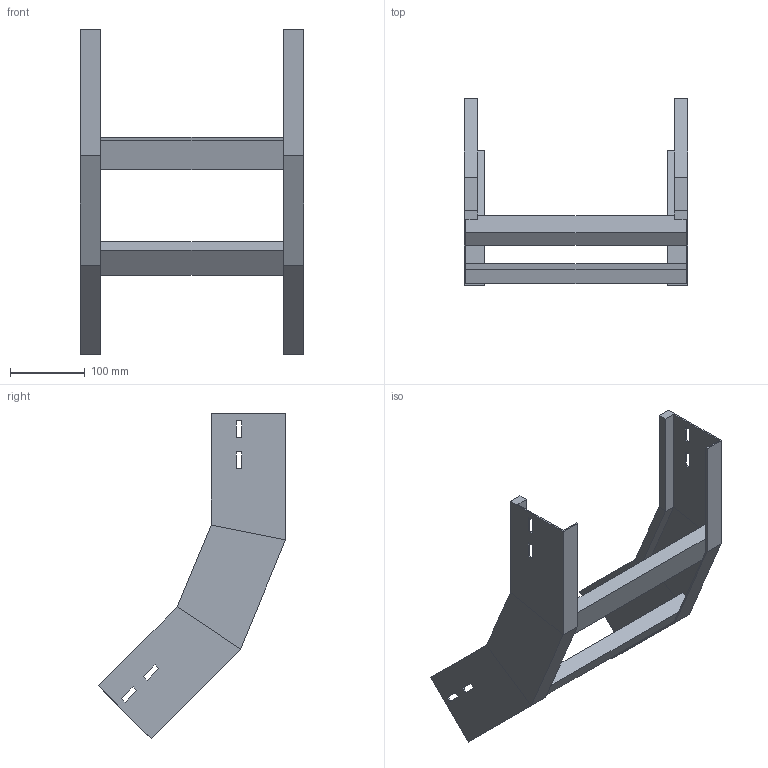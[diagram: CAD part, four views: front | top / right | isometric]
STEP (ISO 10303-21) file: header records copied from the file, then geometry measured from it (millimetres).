
FILE_DESCRIPTION (( 'STEP AP214' ), '1' );
FILE_NAME ('A2X31B3D300XX.step', '2025-03-20T10:03:53', ( '' ), ( '' ), 'SwSTEP 2.0', 'SolidWorks 2023', '' );
FILE_SCHEMA (( 'AUTOMOTIVE_DESIGN' ));
Length unit declared in the file: millimetre
Products named in the file (3): TRAVERSINO_300; LONGH.SALITA_45°_H100_R300; A2X31B3D300XX
Assembly tree (4 placements, depth 2):
  A2X31B3D300XX
    LONGH.SALITA_45°_H100_R300  x2
    TRAVERSINO_300  x2
Bounding box: 300 x 251.29 x 435.96 mm (x, y, z)
Volume: 872310.5 mm3; surface area: 338691 mm2
Topology: 4 solids, 4 shells, 96 faces, 232 edges, 144 vertices
Faces by surface type: plane 96
Entity records: 1472 total; most frequent: CARTESIAN_POINT 243, ORIENTED_EDGE 232, DIRECTION 226, LINE 116, VECTOR 116, EDGE_CURVE 116, VERTEX_POINT 72, EDGE_LOOP 56
